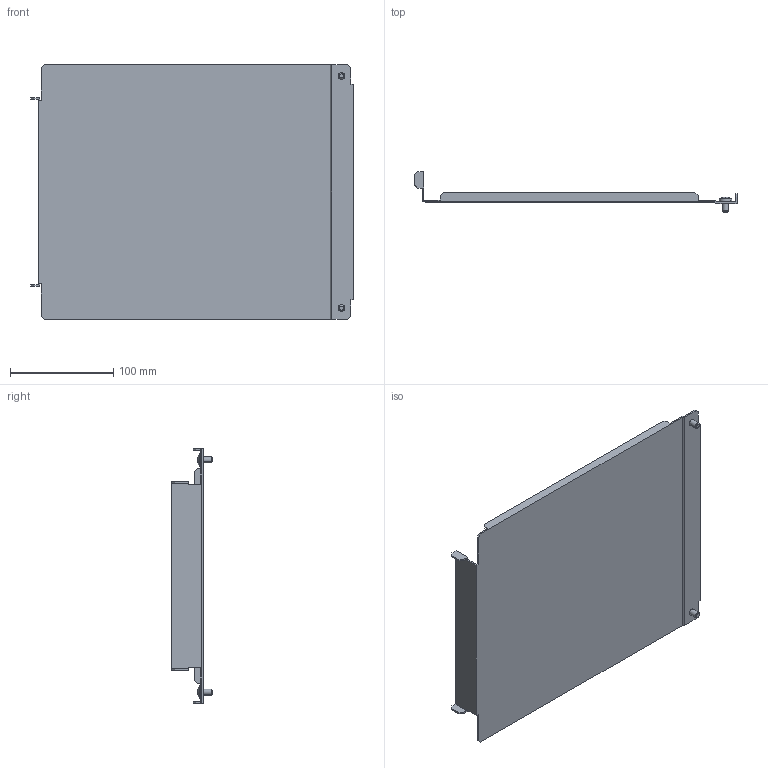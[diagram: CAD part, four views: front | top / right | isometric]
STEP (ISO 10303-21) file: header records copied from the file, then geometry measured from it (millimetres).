
FILE_DESCRIPTION (( 'STEP AP214' ), '1' );
FILE_NAME ('FO-00-PVHC-030 Ïåðåãîðîäêà àïïàðàòíîãî îòñåêà áîêîâàÿ âåðòèêàëüíàÿ ñïëîøíàÿ âûñîòà 300 ìì.STEP', '2025-08-18T06:37:46', ( '' ), ( '' ), 'SwSTEP 2.0', 'SolidWorks 2023', '' );
FILE_SCHEMA (( 'AUTOMOTIVE_DESIGN' ));
Length unit declared in the file: millimetre
Products named in the file (1): FO-00-PVHC-030 Перегородка аппаратного отсека боковая вертикальная сплошная высота 300 мм
Bounding box: 312.84 x 38.98 x 247 mm (x, y, z)
Volume: 129408.1 mm3; surface area: 173547 mm2
Topology: 1 solids, 1 shells, 130 faces, 360 edges, 236 vertices
Faces by surface type: plane 76, cylinder 42, torus 4, cone 4, sphere 4
Entity records: 4207 total; most frequent: CARTESIAN_POINT 861, ORIENTED_EDGE 720, DIRECTION 658, EDGE_CURVE 360, VECTOR 256, LINE 256, VERTEX_POINT 236, AXIS2_PLACEMENT_3D 201
